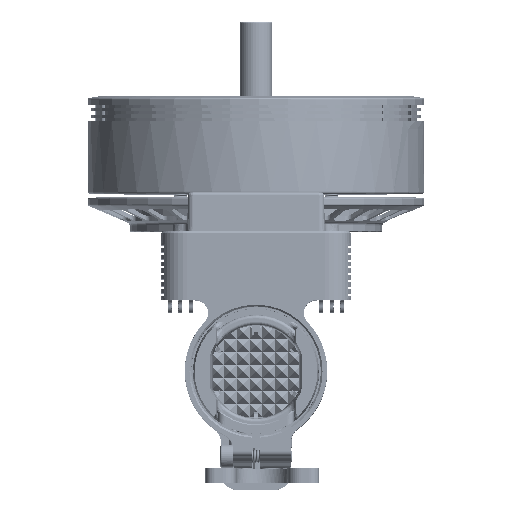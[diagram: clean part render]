
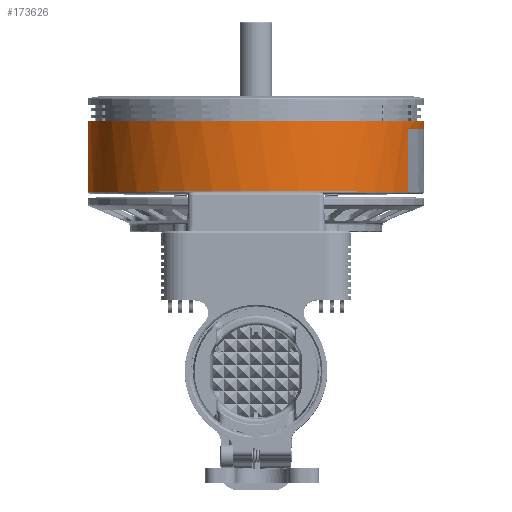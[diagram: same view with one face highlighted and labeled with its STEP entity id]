
A CAD part, top view. The second image highlights one B-rep face of the part: STEP entity #173626.
In plain terms, the highlighted cylindrical face has radius 52 mm (diameter 104 mm), a partial arc.
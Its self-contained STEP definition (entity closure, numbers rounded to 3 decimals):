
#65786=CARTESIAN_POINT('',(109.286,264.32,36.395));
#65787=DIRECTION('',(0.,-1.,0.));
#65788=DIRECTION('',(-1.,0.,0.018));
#65789=AXIS2_PLACEMENT_3D('',#65786,#65787,#65788);
#65791=DIRECTION('',(0.,-1.,0.));
#65792=VECTOR('',#65791,19.4);
#65793=CARTESIAN_POINT('',(156.359,264.32,58.488));
#65794=LINE('',#65793,#65792);
#65795=DIRECTION('',(0.,1.,0.));
#65796=VECTOR('',#65795,2.4);
#65797=CARTESIAN_POINT('',(57.294,264.32,37.326));
#65798=LINE('',#65797,#65796);
#65799=CARTESIAN_POINT('',(109.286,264.32,36.395));
#65800=DIRECTION('',(0.,1.,0.));
#65801=DIRECTION('',(0.905,0.,0.425));
#65802=AXIS2_PLACEMENT_3D('',#65799,#65800,#65801);
#65804=DIRECTION('',(0.,-1.,0.));
#65805=VECTOR('',#65804,19.4);
#65806=CARTESIAN_POINT('',(62.213,264.32,14.302));
#65807=LINE('',#65806,#65805);
#65808=DIRECTION('',(0.,1.,0.));
#65809=VECTOR('',#65808,2.4);
#65810=CARTESIAN_POINT('',(161.278,264.32,35.464));
#65811=LINE('',#65810,#65809);
#65817=CARTESIAN_POINT('',(109.286,244.92,36.395));
#65818=DIRECTION('',(0.,-1.,0.));
#65819=DIRECTION('',(0.905,0.,0.425));
#65820=AXIS2_PLACEMENT_3D('',#65817,#65818,#65819);
#65827=CARTESIAN_POINT('',(109.286,266.72,36.395));
#65828=DIRECTION('',(0.,1.,0.));
#65829=DIRECTION('',(-1.,0.,0.018));
#65830=AXIS2_PLACEMENT_3D('',#65827,#65828,#65829);
#76240=CARTESIAN_POINT('',(161.278,266.72,35.464));
#76241=CARTESIAN_POINT('',(57.294,266.72,37.326));
#76242=VERTEX_POINT('',#76240);
#76243=VERTEX_POINT('',#76241);
#76380=CARTESIAN_POINT('',(62.213,244.92,14.302));
#76381=CARTESIAN_POINT('',(156.359,244.92,58.488));
#76382=VERTEX_POINT('',#76380);
#76383=VERTEX_POINT('',#76381);
#79297=CARTESIAN_POINT('',(57.294,264.32,37.326));
#79298=CARTESIAN_POINT('',(62.213,264.32,14.302));
#79299=VERTEX_POINT('',#79297);
#79300=VERTEX_POINT('',#79298);
#79301=CARTESIAN_POINT('',(156.359,264.32,58.488));
#79302=CARTESIAN_POINT('',(161.278,264.32,35.464));
#79303=VERTEX_POINT('',#79301);
#79304=VERTEX_POINT('',#79302);
#173609=CARTESIAN_POINT('',(109.286,230.19,
36.395));
#173610=DIRECTION('',(0.,-1.,0.));
#173611=DIRECTION('',(1.,0.,-0.018));
#173612=AXIS2_PLACEMENT_3D('',#173609,#173610,#173611);
#173613=CYLINDRICAL_SURFACE('',#173612,52.);
#173614=ORIENTED_EDGE('',*,*,#173598,.F.);
#173615=ORIENTED_EDGE('',*,*,#173596,.T.);
#173617=ORIENTED_EDGE('',*,*,#173616,.T.);
#173618=ORIENTED_EDGE('',*,*,#173593,.F.);
#173619=ORIENTED_EDGE('',*,*,#173591,.F.);
#173620=ORIENTED_EDGE('',*,*,#173604,.T.);
#173622=ORIENTED_EDGE('',*,*,#173621,.T.);
#173623=ORIENTED_EDGE('',*,*,#173600,.F.);
#173624=EDGE_LOOP('',(#173614,#173615,#173617,#173618,#173619,#173620,#173622,
#173623));
#173625=FACE_OUTER_BOUND('',#173624,.F.);
#65790=CIRCLE('',#65789,52.);
#65803=CIRCLE('',#65802,52.);
#65821=CIRCLE('',#65820,52.);
#65831=CIRCLE('',#65830,52.);
#173591=EDGE_CURVE('',#79299,#79300,#65790,.T.);
#173593=EDGE_CURVE('',#79300,#76382,#65807,.T.);
#173596=EDGE_CURVE('',#79303,#76383,#65794,.T.);
#173598=EDGE_CURVE('',#79303,#79304,#65803,.T.);
#173600=EDGE_CURVE('',#79304,#76242,#65811,.T.);
#173604=EDGE_CURVE('',#79299,#76243,#65798,.T.);
#173616=EDGE_CURVE('',#76383,#76382,#65821,.T.);
#173621=EDGE_CURVE('',#76243,#76242,#65831,.T.);
#173626=ADVANCED_FACE('',(#173625),#173613,.T.);
